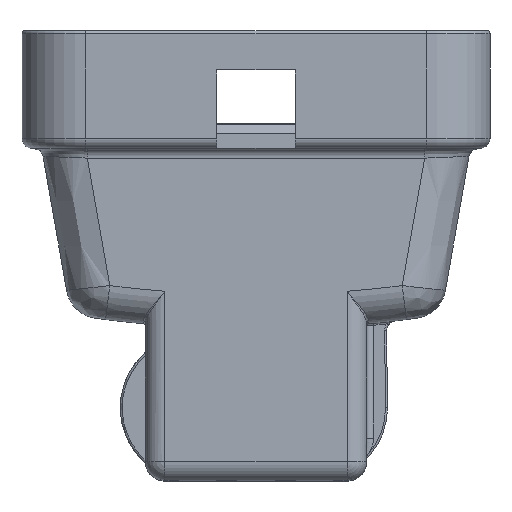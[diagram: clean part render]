
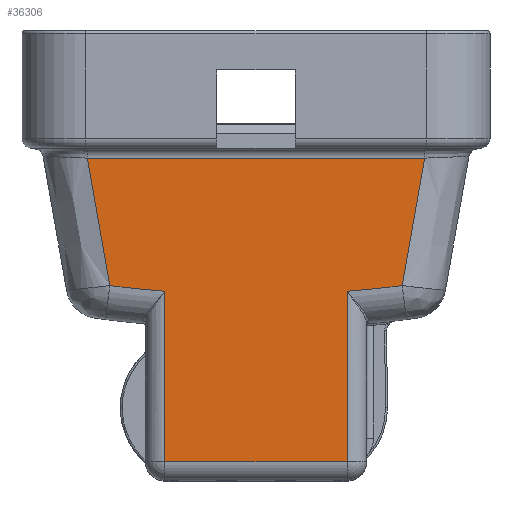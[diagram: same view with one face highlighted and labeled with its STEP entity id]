
A CAD part, front view. The second image highlights one B-rep face of the part: STEP entity #36306.
In plain terms, the highlighted planar face has unit normal (0, -1, 0).
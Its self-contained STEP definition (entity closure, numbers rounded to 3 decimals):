
#237 = CARTESIAN_POINT ( 'NONE',  ( 8.967, 2., -26.024 ) ) ;
#269 = ORIENTED_EDGE ( 'NONE', *, *, #6276, .T. ) ;
#1274 = ORIENTED_EDGE ( 'NONE', *, *, #1899, .T. ) ;
#17942 = FACE_OUTER_BOUND ( 'NONE', #36953, .T. ) ;
#17943 = PLANE ( 'NONE',  #17944 ) ;
#17944 = AXIS2_PLACEMENT_3D ( 'NONE', #17945, #17946, #17947 ) ;
#17945 = CARTESIAN_POINT ( 'NONE',  ( 41.3, 2., -12. ) ) ;
#17946 = DIRECTION ( 'NONE',  ( 0., -1., 0. ) ) ;
#17947 = DIRECTION ( 'NONE',  ( 0., 0., -1. ) ) ;
#34458 = LINE ( 'NONE', #34459, #34486 ) ;
#34459 = CARTESIAN_POINT ( 'NONE',  ( 33.2, 2., -44. ) ) ;
#34486 = VECTOR ( 'NONE', #34487, 1000. ) ;
#34487 = DIRECTION ( 'NONE',  ( 1., 0., 0. ) ) ;
#1899 = EDGE_CURVE ( 'NONE', #4740, #2427, #24708, .T. ) ;
#34849 = CARTESIAN_POINT ( 'NONE',  ( 41.124, 2., -13. ) ) ;
#2427 = VERTEX_POINT ( 'NONE', #28941 ) ;
#35246 = CARTESIAN_POINT ( 'NONE',  ( 33.2, 2., -44. ) ) ;
#35429 = CARTESIAN_POINT ( 'NONE',  ( 14.6, 2., -26.597 ) ) ;
#2748 = LINE ( 'NONE', #2749, #2750 ) ;
#2749 = CARTESIAN_POINT ( 'NONE',  ( 39.805, 2., -20.5 ) ) ;
#2750 = VECTOR ( 'NONE', #2751, 1000. ) ;
#2751 = DIRECTION ( 'NONE',  ( -0.173, 0., -0.985 ) ) ;
#36021 = LINE ( 'NONE', #36022, #36023 ) ;
#36022 = CARTESIAN_POINT ( 'NONE',  ( 33.2, 2., -26.425 ) ) ;
#36023 = VECTOR ( 'NONE', #36024, 1000. ) ;
#36024 = DIRECTION ( 'NONE',  ( 0., 0., 1. ) ) ;
#3279 = ORIENTED_EDGE ( 'NONE', *, *, #3956, .T. ) ;
#36306 = ADVANCED_FACE ( 'NONE', ( #17942 ), #17943, .T. ) ;
#3956 = EDGE_CURVE ( 'NONE', #2427, #4477, #34458, .T. ) ;
#36953 = EDGE_LOOP ( 'NONE', ( #269, #1274, #3279, #5345, #7359, #8338, #9306, #10954 ) ) ;
#4477 = VERTEX_POINT ( 'NONE', #35246 ) ;
#4740 = VERTEX_POINT ( 'NONE', #35429 ) ;
#37591 = CIRCLE ( 'NONE', #37592, 119.8 ) ;
#37592 = AXIS2_PLACEMENT_3D ( 'NONE', #37593, #37594, #37595 ) ;
#37593 = CARTESIAN_POINT ( 'NONE',  ( 23.9, 2., 92.841 ) ) ;
#37594 = DIRECTION ( 'NONE',  ( 0., -1., 0. ) ) ;
#37595 = DIRECTION ( 'NONE',  ( 0., 0., -1. ) ) ;
#5345 = ORIENTED_EDGE ( 'NONE', *, *, #6014, .T. ) ;
#6014 = EDGE_CURVE ( 'NONE', #4477, #12819, #36021, .T. ) ;
#6276 = EDGE_CURVE ( 'NONE', #6758, #4740, #37591, .T. ) ;
#6758 = VERTEX_POINT ( 'NONE', #237 ) ;
#7359 = ORIENTED_EDGE ( 'NONE', *, *, #12332, .T. ) ;
#24708 = LINE ( 'NONE', #24709, #24710 ) ;
#24709 = CARTESIAN_POINT ( 'NONE',  ( 14.6, 2., -12. ) ) ;
#24710 = VECTOR ( 'NONE', #24711, 1000. ) ;
#24711 = DIRECTION ( 'NONE',  ( 0., 0., -1. ) ) ;
#8338 = ORIENTED_EDGE ( 'NONE', *, *, #27931, .F. ) ;
#9090 = LINE ( 'NONE', #9091, #9092 ) ;
#9091 = CARTESIAN_POINT ( 'NONE',  ( 41.3, 2., -13. ) ) ;
#9092 = VECTOR ( 'NONE', #9093, 1000. ) ;
#9093 = DIRECTION ( 'NONE',  ( -1., 0., 0. ) ) ;
#9306 = ORIENTED_EDGE ( 'NONE', *, *, #9911, .T. ) ;
#26105 = VERTEX_POINT ( 'NONE', #34849 ) ;
#9911 = EDGE_CURVE ( 'NONE', #26105, #32246, #9090, .T. ) ;
#10954 = ORIENTED_EDGE ( 'NONE', *, *, #31724, .F. ) ;
#27931 = EDGE_CURVE ( 'NONE', #26105, #13232, #2748, .T. ) ;
#11609 = CIRCLE ( 'NONE', #11610, 119.8 ) ;
#11610 = AXIS2_PLACEMENT_3D ( 'NONE', #11611, #11612, #11613 ) ;
#11611 = CARTESIAN_POINT ( 'NONE',  ( 23.9, 2., 92.841 ) ) ;
#11612 = DIRECTION ( 'NONE',  ( 0., -1., 0. ) ) ;
#11613 = DIRECTION ( 'NONE',  ( 0., 0., -1. ) ) ;
#11915 = CARTESIAN_POINT ( 'NONE',  ( 33.2, 2., -26.597 ) ) ;
#12164 = CARTESIAN_POINT ( 'NONE',  ( 38.833, 2., -26.024 ) ) ;
#12332 = EDGE_CURVE ( 'NONE', #12819, #13232, #11609, .T. ) ;
#28941 = CARTESIAN_POINT ( 'NONE',  ( 14.6, 2., -44. ) ) ;
#12775 = LINE ( 'NONE', #12776, #12777 ) ;
#12776 = CARTESIAN_POINT ( 'NONE',  ( 7.995, 2., -20.5 ) ) ;
#12777 = VECTOR ( 'NONE', #12778, 1000. ) ;
#12778 = DIRECTION ( 'NONE',  ( -0.173, 0., 0.985 ) ) ;
#12819 = VERTEX_POINT ( 'NONE', #11915 ) ;
#13083 = CARTESIAN_POINT ( 'NONE',  ( 6.676, 2., -13. ) ) ;
#13232 = VERTEX_POINT ( 'NONE', #12164 ) ;
#31724 = EDGE_CURVE ( 'NONE', #6758, #32246, #12775, .T. ) ;
#32246 = VERTEX_POINT ( 'NONE', #13083 ) ;
